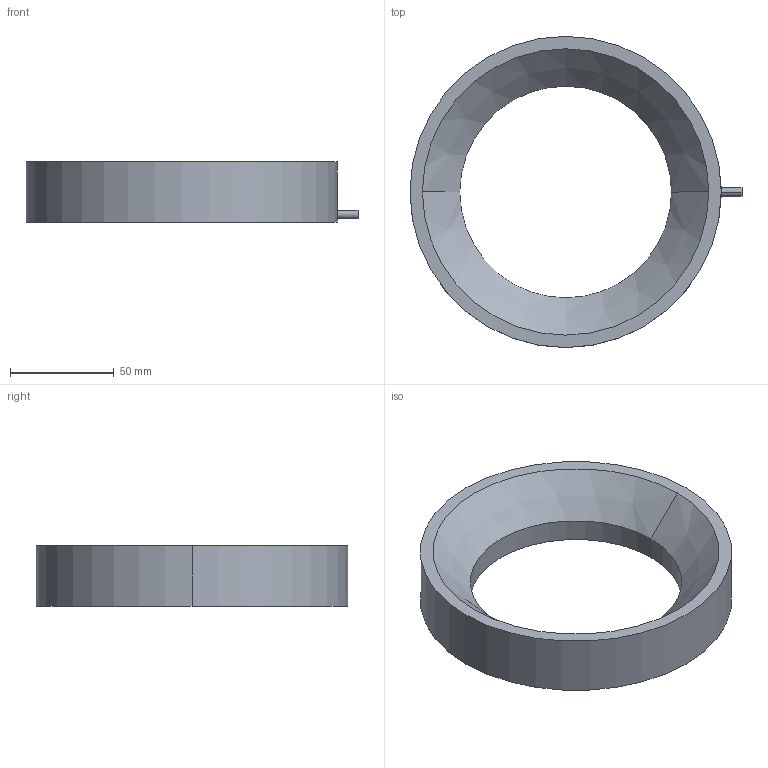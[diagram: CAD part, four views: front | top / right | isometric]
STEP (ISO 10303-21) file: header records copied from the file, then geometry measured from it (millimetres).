
FILE_DESCRIPTION (( 'STEP AP203' ), '1' );
FILE_NAME ('CRT-RL15030-¼òÒ×3DÍ¼.STEP', '2021-12-20T09:27:46', ( 'Admin' ), ( '' ), 'SwSTEP 2.0', 'SolidWorks 2018', '' );
FILE_SCHEMA (( 'CONFIG_CONTROL_DESIGN' ));
Length unit declared in the file: millimetre
Products named in the file (1): CRT-RL15030-潠眢3D芞
Bounding box: 160 x 150 x 29 mm (x, y, z)
Volume: 217568 mm3; surface area: 39233.6 mm2
Topology: 1 solids, 1 shells, 27 faces, 63 edges, 34 vertices
Faces by surface type: cylinder 14, cone 10, plane 3
Entity records: 846 total; most frequent: CARTESIAN_POINT 173, DIRECTION 137, ORIENTED_EDGE 110, AXIS2_PLACEMENT_3D 56, EDGE_CURVE 55, VERTEX_POINT 34, EDGE_LOOP 33, CIRCLE 28
